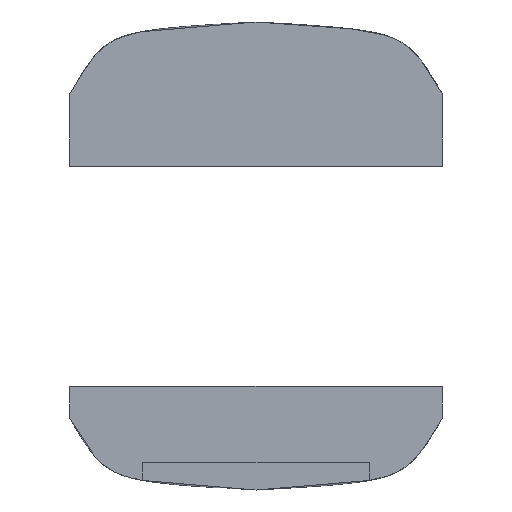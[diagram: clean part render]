
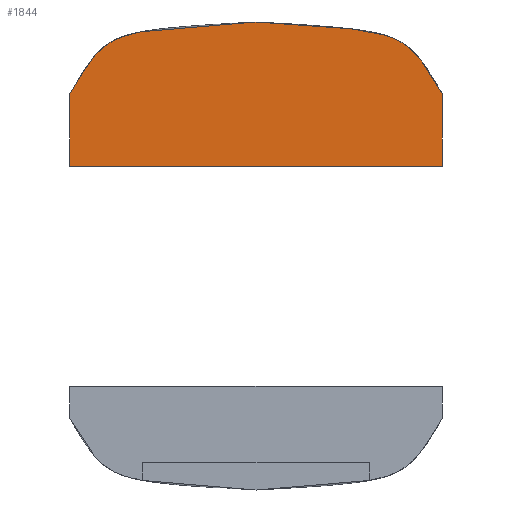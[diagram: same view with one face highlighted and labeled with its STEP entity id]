
A CAD part, front view. The second image highlights one B-rep face of the part: STEP entity #1844.
In plain terms, the highlighted planar face has unit normal (0, -1, 0).
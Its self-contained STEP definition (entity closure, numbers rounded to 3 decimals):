
#13=(
BOUNDED_CURVE()
B_SPLINE_CURVE(2,(#3653,#3654,#3655),.UNSPECIFIED.,.F.,.F.)
B_SPLINE_CURVE_WITH_KNOTS((3,3),(-0.962,0.),.UNSPECIFIED.)
CURVE()
GEOMETRIC_REPRESENTATION_ITEM()
RATIONAL_B_SPLINE_CURVE((1.,2.792,1.))
REPRESENTATION_ITEM('')
);
#14=(
BOUNDED_CURVE()
B_SPLINE_CURVE(2,(#3739,#3740,#3741),.UNSPECIFIED.,.F.,.F.)
B_SPLINE_CURVE_WITH_KNOTS((3,3),(0.,0.962),.UNSPECIFIED.)
CURVE()
GEOMETRIC_REPRESENTATION_ITEM()
RATIONAL_B_SPLINE_CURVE((1.,2.792,1.))
REPRESENTATION_ITEM('')
);
#284=FACE_OUTER_BOUND('',#401,.T.);
#401=EDGE_LOOP('',(#1667,#1668,#1669,#1670,#1671));
#497=LINE('',#3137,#644);
#501=LINE('',#3150,#648);
#549=LINE('',#3813,#696);
#644=VECTOR('',#2269,10.);
#648=VECTOR('',#2277,10.);
#696=VECTOR('',#2481,10.);
#798=VERTEX_POINT('',#3134);
#799=VERTEX_POINT('',#3136);
#802=VERTEX_POINT('',#3149);
#856=VERTEX_POINT('',#3650);
#857=VERTEX_POINT('',#3652);
#1021=EDGE_CURVE('',#799,#798,#497,.T.);
#1026=EDGE_CURVE('',#802,#799,#501,.T.);
#1104=EDGE_CURVE('',#857,#856,#13,.T.);
#1111=EDGE_CURVE('',#798,#857,#14,.T.);
#1141=EDGE_CURVE('',#802,#856,#549,.T.);
#1667=ORIENTED_EDGE('',*,*,#1104,.T.);
#1668=ORIENTED_EDGE('',*,*,#1141,.F.);
#1669=ORIENTED_EDGE('',*,*,#1026,.T.);
#1670=ORIENTED_EDGE('',*,*,#1021,.T.);
#1671=ORIENTED_EDGE('',*,*,#1111,.T.);
#1743=PLANE('',#2017);
#1844=ADVANCED_FACE('',(#284),#1743,.T.);
#2017=AXIS2_PLACEMENT_3D('',#3812,#2479,#2480);
#2269=DIRECTION('',(0.,0.,1.));
#2277=DIRECTION('',(1.,0.,0.));
#2479=DIRECTION('center_axis',(0.,-1.,0.));
#2480=DIRECTION('ref_axis',(1.,0.,0.));
#2481=DIRECTION('',(0.,0.,1.));
#3134=CARTESIAN_POINT('',(-21.059,-43.998,18.));
#3136=CARTESIAN_POINT('',(-21.059,-43.998,14.7));
#3137=CARTESIAN_POINT('',(-21.059,-43.998,10.));
#3149=CARTESIAN_POINT('',(-37.959,-43.998,14.7));
#3150=CARTESIAN_POINT('',(-33.734,-43.998,14.7));
#3650=CARTESIAN_POINT('',(-37.959,-43.998,18.));
#3652=CARTESIAN_POINT('',(-29.509,-43.998,21.25));
#3653=CARTESIAN_POINT('Ctrl Pts',(-29.509,-43.998,21.25));
#3654=CARTESIAN_POINT('Ctrl Pts',(-36.324,-43.998,20.893));
#3655=CARTESIAN_POINT('Ctrl Pts',(-37.959,-43.998,18.));
#3739=CARTESIAN_POINT('Ctrl Pts',(-21.059,-43.998,18.));
#3740=CARTESIAN_POINT('Ctrl Pts',(-22.694,-43.998,20.893));
#3741=CARTESIAN_POINT('Ctrl Pts',(-29.509,-43.998,21.25));
#3812=CARTESIAN_POINT('Origin',(-37.959,-43.998,10.));
#3813=CARTESIAN_POINT('',(-37.959,-43.998,10.));
